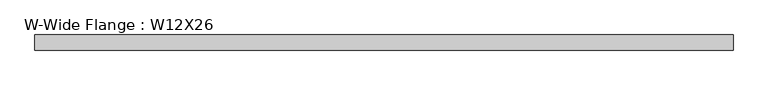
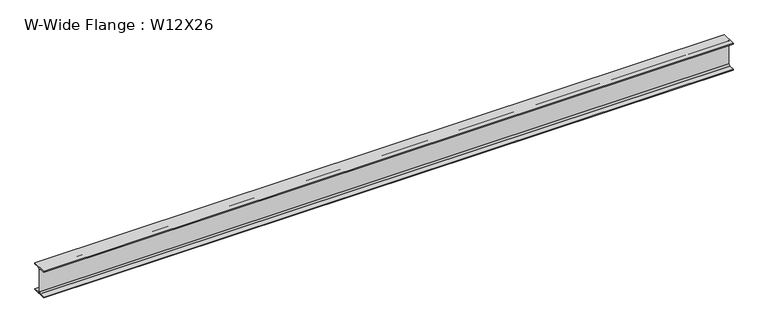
"""IFC4 building model written with IfcOpenShell, lengths in millimetres: beam geometry, W-Wide Flange : W12X26."""

from ifc_helpers import new_model, si_unit, point, frame, frame_2d, origin, place, context, project, spatial, polyline, circle_curve, trimmed, segment, composite_curve, outline, extrude, source, transform, mapped, element, save


def w_wide_flange_w12x26_b457d077(model_context):
    return source(origin(), model_context, "Body", "SweptSolid", [
        extrude(outline(composite_curve([segment(polyline([(82.4011719, -145.5539063), (82.4011719, -155.178125), (-82.4011719, -155.178125), (-82.4011719, -145.5539063), (-20.2902344, -145.5539063)]), True, "CONTINUOUS"), segment(trimmed(circle_curve(frame_2d((-20.2902344, -128.190625)), 17.3632812), [point((-20.2902344, -145.5539063))], [point((-2.9269531, -128.190625))], True, "CARTESIAN"), True, "CONTINUOUS"), segment(polyline([(-2.9269531, -128.190625), (-2.9269531, 128.190625)]), True, "CONTINUOUS"), segment(trimmed(circle_curve(frame_2d((-20.2902344, 128.190625)), 17.3632812), [point((-2.9269531, 128.190625))], [point((-20.2902344, 145.5539062))], True, "CARTESIAN"), True, "CONTINUOUS"), segment(polyline([(-20.2902344, 145.5539062), (-82.4011719, 145.5539062), (-82.4011719, 155.178125), (82.4011719, 155.178125), (82.4011719, 145.5539062), (20.2902344, 145.5539062)]), True, "CONTINUOUS"), segment(trimmed(circle_curve(frame_2d((20.2902344, 128.190625)), 17.3632812), [point((20.2902344, 145.5539062))], [point((2.9269531, 128.190625))], True, "CARTESIAN"), True, "CONTINUOUS"), segment(polyline([(2.9269531, 128.190625), (2.9269531, -128.190625)]), True, "CONTINUOUS"), segment(trimmed(circle_curve(frame_2d((20.2902344, -128.190625)), 17.3632812), [point((2.9269531, -128.190625))], [point((20.2902344, -145.5539063))], True, "CARTESIAN"), True, "CONTINUOUS"), segment(polyline([(20.2902344, -145.5539063), (82.4011719, -145.5539063)]), True, "CONTINUOUS")], self_intersect=False)), frame((-3799.0820515, 0.0, 0.0), z_axis=(1.0, 0.0, 0.0), x_axis=(0.0, 1.0, 0.0)), (0.0, 0.0, 1.0), 7598.1641031),
    ])


if __name__ == "__main__":
    model = new_model("IFC4")
    model_context = context("Model", 3, world=origin())
    ifc_project = project(units=[si_unit("LENGTHUNIT", "METRE", prefix="MILLI")], contexts=[model_context])
    site = spatial("IfcSite", under=ifc_project)
    building = spatial("IfcBuilding", under=site)
    placement = place(None, origin())
    w_wide_flange_w12x26_shape = w_wide_flange_w12x26_b457d077(model_context)
    element("IfcBeam", 1, ObjectType="W-Wide Flange : W12X26", at=placement, inside=building, context=model_context, shape_type="MappedRepresentation", body=[
        mapped(w_wide_flange_w12x26_shape, transform((0.0, 0.0, 0.0), x_axis=(1.0, 0.0, 0.0), y_axis=(0.0, 1.0, 0.0), z_axis=(0.0, 0.0, 1.0))),
    ])
    save(model, "model.ifc")
